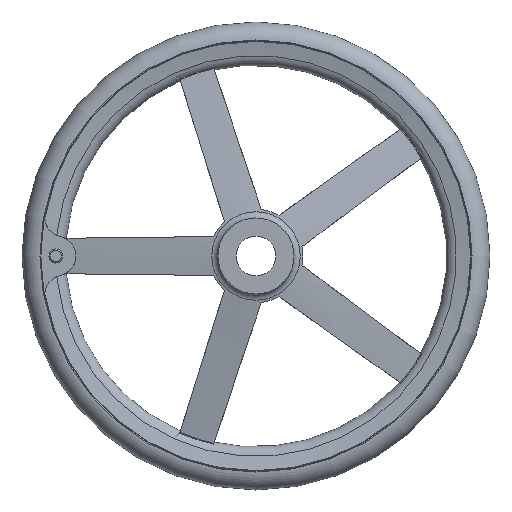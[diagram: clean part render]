
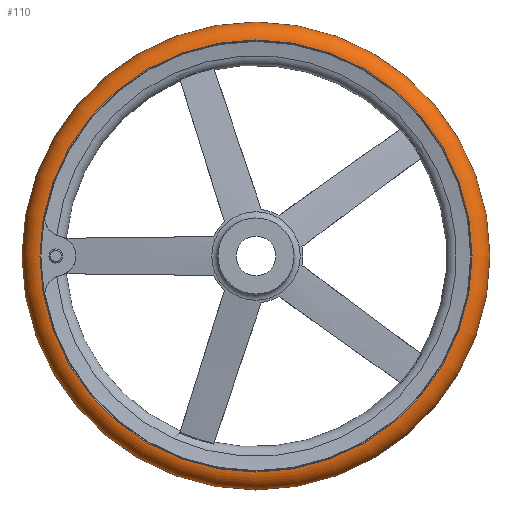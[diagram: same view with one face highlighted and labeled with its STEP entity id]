
A CAD part, left-side view. The second image highlights one B-rep face of the part: STEP entity #110.
In plain terms, the highlighted toroidal (fillet/blend) face has major radius 183.986 mm and minor radius 16.015 mm.
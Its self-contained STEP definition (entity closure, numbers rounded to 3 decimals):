
#110 = ADVANCED_FACE( '', ( #221, #222, #223 ), #224, .T. );
#221 = FACE_BOUND( '', #402, .T. );
#222 = FACE_OUTER_BOUND( '', #403, .T. );
#223 = FACE_OUTER_BOUND( '', #404, .T. );
#224 = TOROIDAL_SURFACE( '', #405, 183.986, 16.014 );
#402 = VERTEX_LOOP( '', #757 );
#403 = EDGE_LOOP( '', ( #758 ) );
#404 = EDGE_LOOP( '', ( #759 ) );
#405 = AXIS2_PLACEMENT_3D( '', #760, #761, #762 );
#757 = VERTEX_POINT( '', #1055 );
#758 = ORIENTED_EDGE( '', *, *, #1056, .T. );
#759 = ORIENTED_EDGE( '', *, *, #987, .F. );
#760 = CARTESIAN_POINT( '', ( 47., 0., 0. ) );
#761 = DIRECTION( '', ( 1., 0., 0. ) );
#762 = DIRECTION( '', ( 0., 1., 0. ) );
#987 = EDGE_CURVE( '', #1186, #1186, #1187, .T. );
#1055 = CARTESIAN_POINT( '', ( 47., 200., 0. ) );
#1056 = EDGE_CURVE( '', #1293, #1293, #1294, .T. );
#1186 = VERTEX_POINT( '', #1792 );
#1187 = CIRCLE( '', #1793, 184.667 );
#1293 = VERTEX_POINT( '', #2181 );
#1294 = CIRCLE( '', #2182, 184.667 );
#1792 = CARTESIAN_POINT( '', ( 63., 184.667, 0. ) );
#1793 = AXIS2_PLACEMENT_3D( '', #2320, #2321, #2322 );
#2181 = CARTESIAN_POINT( '', ( 31., 184.667, 0. ) );
#2182 = AXIS2_PLACEMENT_3D( '', #2417, #2418, #2419 );
#2320 = CARTESIAN_POINT( '', ( 63., 0., 0. ) );
#2321 = DIRECTION( '', ( 1., 0., 0. ) );
#2322 = DIRECTION( '', ( 0., 1., 0. ) );
#2417 = CARTESIAN_POINT( '', ( 31., 0., 0. ) );
#2418 = DIRECTION( '', ( 1., 0., 0. ) );
#2419 = DIRECTION( '', ( 0., 1., 0. ) );
